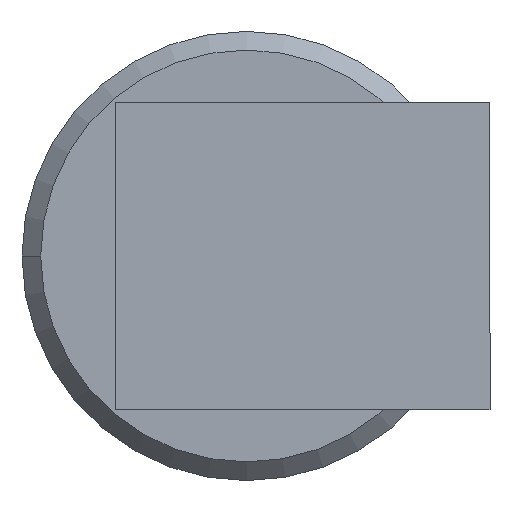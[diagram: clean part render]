
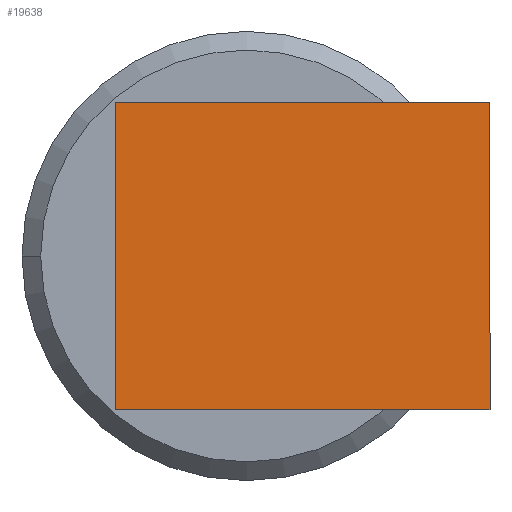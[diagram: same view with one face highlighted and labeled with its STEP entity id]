
A CAD part, left-side view. The second image highlights one B-rep face of the part: STEP entity #19638.
In plain terms, the highlighted planar face has unit normal (-1, 0, 0).
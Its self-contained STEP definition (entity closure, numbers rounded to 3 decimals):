
#163 = ORIENTED_EDGE ( 'NONE', *, *, #11601, .F. ) ;
#401 = VERTEX_POINT ( 'NONE', #4332 ) ;
#1039 = VERTEX_POINT ( 'NONE', #4501 ) ;
#3724 = LINE ( 'NONE', #26711, #11390 ) ;
#4056 = CARTESIAN_POINT ( 'NONE',  ( -175., -6.5, -4.1 ) ) ;
#4279 = DIRECTION ( 'NONE',  ( 0., 0., 1. ) ) ;
#4332 = CARTESIAN_POINT ( 'NONE',  ( -175., 3.5, 4.1 ) ) ;
#4501 = CARTESIAN_POINT ( 'NONE',  ( -175., 3.5, -4.1 ) ) ;
#4982 = DIRECTION ( 'NONE',  ( 0., 0., 1. ) ) ;
#8716 = ORIENTED_EDGE ( 'NONE', *, *, #24651, .F. ) ;
#8813 = DIRECTION ( 'NONE',  ( 0., -1., 0. ) ) ;
#8992 = CARTESIAN_POINT ( 'NONE',  ( -175., -6.5, 4.1 ) ) ;
#10106 = VECTOR ( 'NONE', #19923, 1000. ) ;
#10187 = ORIENTED_EDGE ( 'NONE', *, *, #10761, .T. ) ;
#10357 = CARTESIAN_POINT ( 'NONE',  ( -175., -12.5, -4.1 ) ) ;
#10734 = DIRECTION ( 'NONE',  ( -1., 0., 0. ) ) ;
#10761 = EDGE_CURVE ( 'NONE', #23767, #20839, #3724, .T. ) ;
#11390 = VECTOR ( 'NONE', #4279, 1000. ) ;
#11601 = EDGE_CURVE ( 'NONE', #1039, #401, #23730, .T. ) ;
#11869 = LINE ( 'NONE', #10357, #19274 ) ;
#12525 = CARTESIAN_POINT ( 'NONE',  ( -175., 0., 0. ) ) ;
#14425 = EDGE_LOOP ( 'NONE', ( #8716, #10187, #21260, #163 ) ) ;
#15363 = VECTOR ( 'NONE', #4982, 1000. ) ;
#17156 = PLANE ( 'NONE',  #26056 ) ;
#17860 = CARTESIAN_POINT ( 'NONE',  ( -175., -12.5, 4.1 ) ) ;
#19274 = VECTOR ( 'NONE', #27042, 1000. ) ;
#19638 = ADVANCED_FACE ( 'NONE', ( #24978 ), #17156, .T. ) ;
#19923 = DIRECTION ( 'NONE',  ( 0., 1., 0. ) ) ;
#20839 = VERTEX_POINT ( 'NONE', #8992 ) ;
#21260 = ORIENTED_EDGE ( 'NONE', *, *, #23891, .T. ) ;
#23730 = LINE ( 'NONE', #25649, #15363 ) ;
#23767 = VERTEX_POINT ( 'NONE', #4056 ) ;
#23891 = EDGE_CURVE ( 'NONE', #20839, #401, #25663, .T. ) ;
#24651 = EDGE_CURVE ( 'NONE', #23767, #1039, #11869, .T. ) ;
#24978 = FACE_OUTER_BOUND ( 'NONE', #14425, .T. ) ;
#25649 = CARTESIAN_POINT ( 'NONE',  ( -175., 3.5, -15. ) ) ;
#25663 = LINE ( 'NONE', #17860, #10106 ) ;
#26056 = AXIS2_PLACEMENT_3D ( 'NONE', #12525, #10734, #8813 ) ;
#26711 = CARTESIAN_POINT ( 'NONE',  ( -175., -6.5, -15. ) ) ;
#27042 = DIRECTION ( 'NONE',  ( 0., 1., 0. ) ) ;
